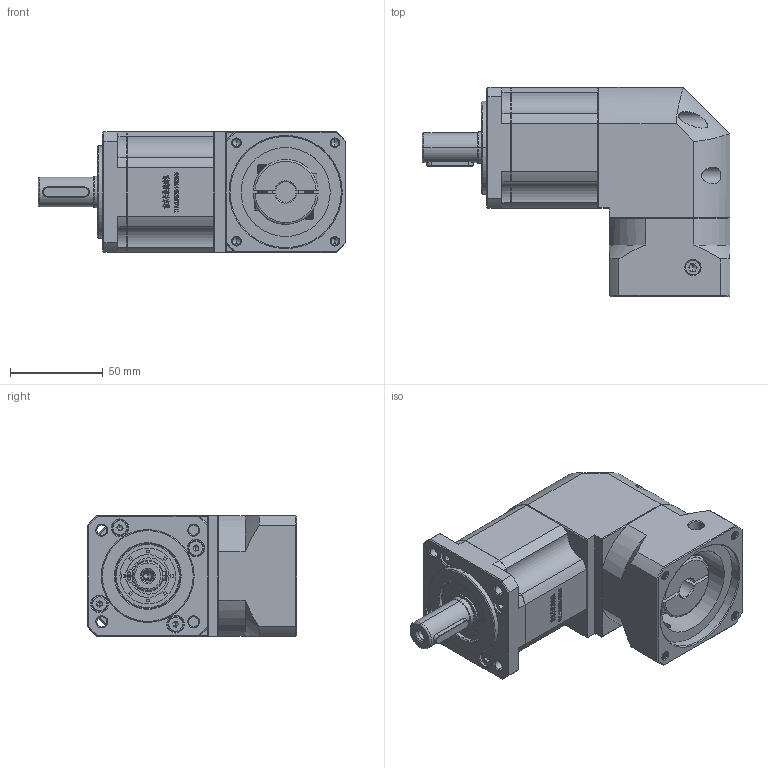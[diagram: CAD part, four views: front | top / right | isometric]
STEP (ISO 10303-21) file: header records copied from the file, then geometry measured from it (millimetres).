
FILE_DESCRIPTION (( 'STEP AP214' ), '1' );
FILE_NAME ('ZBR60-D16-L2-11-60-75-M5.STEP', '2022-04-19T08:49:32', ( '' ), ( 'Microsoft' ), 'SwSTEP 2.0', 'SolidWorks 2016', '' );
FILE_SCHEMA (( 'AUTOMOTIVE_DESIGN' ));
Length unit declared in the file: millimetre
Products named in the file (1): ZBR60-D16-L2-11-60-75-M5
Bounding box: 166 x 112.7 x 65 mm (x, y, z)
Volume: 602839.7 mm3; surface area: 83274.5 mm2
Topology: 5 solids, 5 shells, 2843 faces, 7685 edges, 4978 vertices
Faces by surface type: plane 1472, bspline 591, cylinder 432, cone 328, torus 20
Entity records: 155363 total; most frequent: CARTESIAN_POINT 57055, ORIENTED_EDGE 15310, DIRECTION 11619, EDGE_CURVE 7655, LINE 5059, VECTOR 5059, VERTEX_POINT 4978, AXIS2_PLACEMENT_3D 3280
